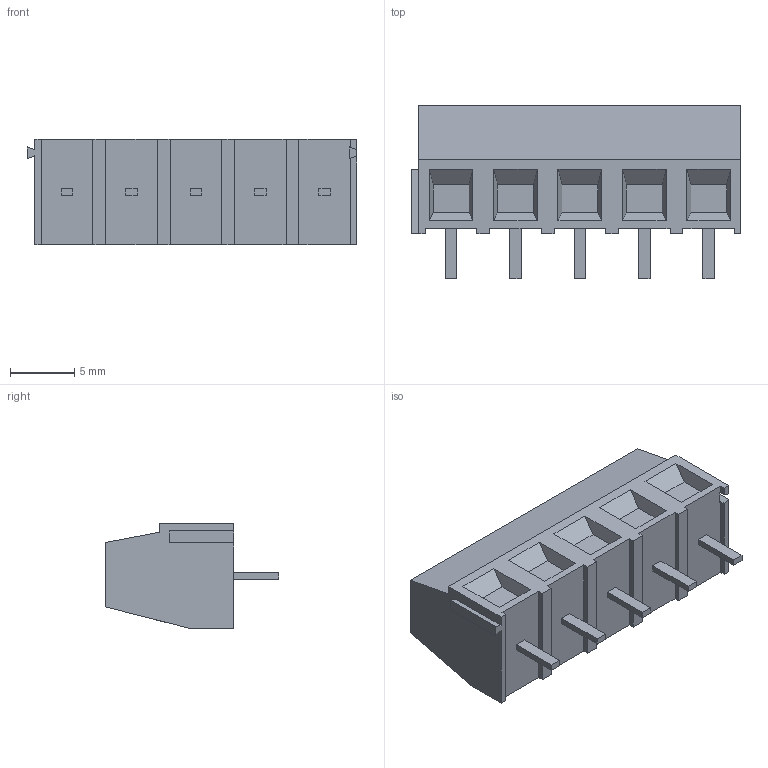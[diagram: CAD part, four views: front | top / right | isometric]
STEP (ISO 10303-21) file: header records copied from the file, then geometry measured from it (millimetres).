
FILE_DESCRIPTION (( 'STEP AP214' ), '1' );
FILE_NAME ('282836-5.STEP', '2023-11-10T18:22:30', ( '' ), ( '' ), 'SwSTEP 2.0', 'SolidWorks 2021', '' );
FILE_SCHEMA (( 'AUTOMOTIVE_DESIGN' ));
Length unit declared in the file: millimetre
Products named in the file (1): 282836-5
Bounding box: 25.6 x 13.5 x 8.2 mm (x, y, z)
Volume: 1612.8 mm3; surface area: 1520.1 mm2
Topology: 11 solids, 11 shells, 174 faces, 426 edges, 284 vertices
Faces by surface type: plane 154, cylinder 20
Entity records: 5194 total; most frequent: CARTESIAN_POINT 885, ORIENTED_EDGE 852, DIRECTION 836, EDGE_CURVE 426, LINE 366, VECTOR 366, VERTEX_POINT 284, AXIS2_PLACEMENT_3D 235
